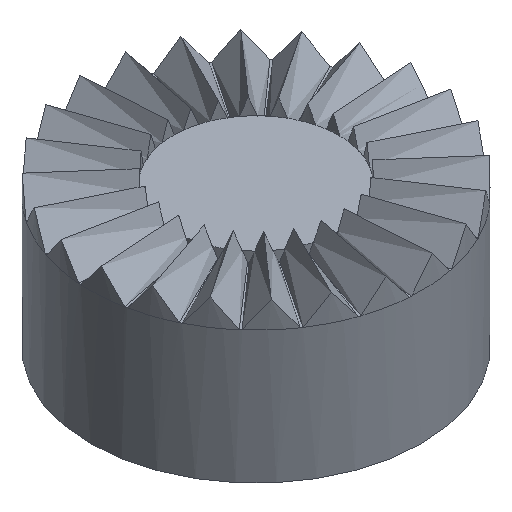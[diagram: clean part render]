
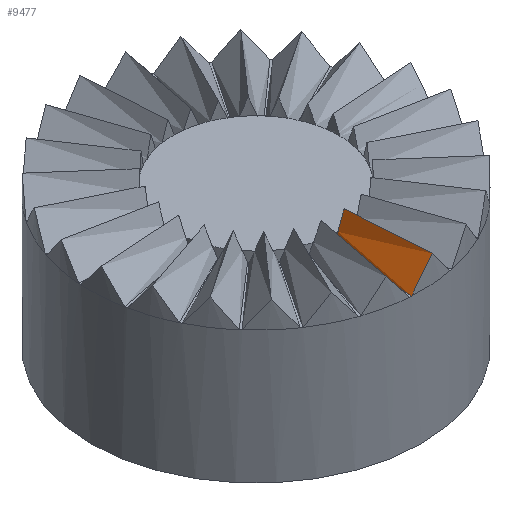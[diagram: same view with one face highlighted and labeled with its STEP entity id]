
A CAD part, isometric view. The second image highlights one B-rep face of the part: STEP entity #9477.
In plain terms, the highlighted free-form (B-spline) face has degree [1, 1] with [2, 2] control points.
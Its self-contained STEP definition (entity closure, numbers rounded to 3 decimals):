
#1389 = VERTEX_POINT('',#1390);
#1390 = CARTESIAN_POINT('',(-0.297,-4.991,-0.4));
#1405 = PLANE('',#1406);
#1406 = AXIS2_PLACEMENT_3D('',#1407,#1408,#1409);
#1407 = CARTESIAN_POINT('',(0.,0.,-0.4)
  );
#1408 = DIRECTION('',(0.,0.,1.));
#1409 = DIRECTION('',(1.,0.,-0.));
#1441 = CYLINDRICAL_SURFACE('',#1442,5.);
#1442 = AXIS2_PLACEMENT_3D('',#1443,#1444,#1445);
#1443 = CARTESIAN_POINT('',(0.,0.,-0.41));
#1444 = DIRECTION('',(-0.,-0.,-1.));
#1445 = DIRECTION('',(1.,0.,0.));
#4878 = EDGE_CURVE('',#4879,#1389,#4881,.T.);
#4879 = VERTEX_POINT('',#4880);
#4880 = CARTESIAN_POINT('',(-0.148,-2.496,-0.4));
#4881 = SURFACE_CURVE('',#4882,(#4885,#4891),.PCURVE_S1.);
#4882 = B_SPLINE_CURVE_WITH_KNOTS('',1,(#4883,#4884),.UNSPECIFIED.,.F.,
  .F.,(2,2),(0.,1.),.PIECEWISE_BEZIER_KNOTS.);
#4883 = CARTESIAN_POINT('',(-0.145,-2.446,-0.4));
#4884 = CARTESIAN_POINT('',(-0.314,-5.291,-0.4));
#4885 = PCURVE('',#1405,#4886);
#4886 = DEFINITIONAL_REPRESENTATION('',(#4887),#4890);
#4887 = B_SPLINE_CURVE_WITH_KNOTS('',1,(#4888,#4889),.UNSPECIFIED.,.F.,
  .F.,(2,2),(0.,1.),.PIECEWISE_BEZIER_KNOTS.);
#4888 = CARTESIAN_POINT('',(-0.145,-2.446));
#4889 = CARTESIAN_POINT('',(-0.314,-5.291));
#4890 = ( GEOMETRIC_REPRESENTATION_CONTEXT(2) 
PARAMETRIC_REPRESENTATION_CONTEXT() REPRESENTATION_CONTEXT('2D SPACE',''
  ) );
#4891 = PCURVE('',#4892,#4897);
#4892 = B_SPLINE_SURFACE_WITH_KNOTS('',1,1,(
    (#4893,#4894)
    ,(#4895,#4896
    )),.UNSPECIFIED.,.F.,.F.,.F.,(2,2),(2,2),(0.,1.038),(0.,1.)
  ,.PIECEWISE_BEZIER_KNOTS.);
#4893 = CARTESIAN_POINT('',(-0.145,-2.446,-0.4));
#4894 = CARTESIAN_POINT('',(-0.314,-5.291,-0.4));
#4895 = CARTESIAN_POINT('',(0.16,-2.445,0.4));
#4896 = CARTESIAN_POINT('',(0.347,-5.289,0.4));
#4897 = DEFINITIONAL_REPRESENTATION('',(#4898),#4902);
#4898 = LINE('',#4899,#4900);
#4899 = CARTESIAN_POINT('',(0.,0.));
#4900 = VECTOR('',#4901,1.);
#4901 = DIRECTION('',(0.,1.));
#4902 = ( GEOMETRIC_REPRESENTATION_CONTEXT(2) 
PARAMETRIC_REPRESENTATION_CONTEXT() REPRESENTATION_CONTEXT('2D SPACE',''
  ) );
#4921 = CYLINDRICAL_SURFACE('',#4922,2.5);
#4922 = AXIS2_PLACEMENT_3D('',#4923,#4924,#4925);
#4923 = CARTESIAN_POINT('',(0.,0.,-0.4));
#4924 = DIRECTION('',(-0.,-0.,-1.));
#4925 = DIRECTION('',(1.,0.,0.));
#4955 = EDGE_CURVE('',#4956,#1389,#4958,.T.);
#4956 = VERTEX_POINT('',#4957);
#4957 = CARTESIAN_POINT('',(0.327,-4.989,0.4));
#4958 = SURFACE_CURVE('',#4959,(#4968,#4980),.PCURVE_S1.);
#4959 = B_SPLINE_CURVE_WITH_KNOTS('',4,(#4960,#4961,#4962,#4963,#4964,
    #4965,#4966,#4967),.UNSPECIFIED.,.F.,.F.,(5,3,5),(0.,0.5,
    1.),.UNSPECIFIED.);
#4960 = CARTESIAN_POINT('',(0.327,-4.989,0.4));
#4961 = CARTESIAN_POINT('',(0.249,-4.994,0.3
    ));
#4962 = CARTESIAN_POINT('',(0.171,-4.998,
    0.2));
#4963 = CARTESIAN_POINT('',(0.093,-5.,
    0.1));
#4964 = CARTESIAN_POINT('',(-0.063,-5.,
    -0.1));
#4965 = CARTESIAN_POINT('',(-0.141,-4.999,
    -0.2));
#4966 = CARTESIAN_POINT('',(-0.219,-4.996,
    -0.3));
#4967 = CARTESIAN_POINT('',(-0.297,-4.991,-0.4));
#4968 = PCURVE('',#1441,#4969);
#4969 = DEFINITIONAL_REPRESENTATION('',(#4970),#4979);
#4970 = B_SPLINE_CURVE_WITH_KNOTS('',4,(#4971,#4972,#4973,#4974,#4975,
    #4976,#4977,#4978),.UNSPECIFIED.,.F.,.F.,(5,3,5),(0.,0.5,
    1.),.UNSPECIFIED.);
#4971 = CARTESIAN_POINT('',(-4.778,-0.81));
#4972 = CARTESIAN_POINT('',(-4.762,-0.71));
#4973 = CARTESIAN_POINT('',(-4.747,-0.61));
#4974 = CARTESIAN_POINT('',(-4.731,-0.51));
#4975 = CARTESIAN_POINT('',(-4.7,-0.31));
#4976 = CARTESIAN_POINT('',(-4.684,-0.21));
#4977 = CARTESIAN_POINT('',(-4.669,-0.11));
#4978 = CARTESIAN_POINT('',(-4.653,-0.01));
#4979 = ( GEOMETRIC_REPRESENTATION_CONTEXT(2) 
PARAMETRIC_REPRESENTATION_CONTEXT() REPRESENTATION_CONTEXT('2D SPACE',''
  ) );
#4980 = PCURVE('',#4892,#4981);
#4981 = DEFINITIONAL_REPRESENTATION('',(#4982),#4991);
#4982 = B_SPLINE_CURVE_WITH_KNOTS('',4,(#4983,#4984,#4985,#4986,#4987,
    #4988,#4989,#4990),.UNSPECIFIED.,.F.,.F.,(5,3,5),(0.,0.5,
    1.),.UNSPECIFIED.);
#4983 = CARTESIAN_POINT('',(1.038,0.895));
#4984 = CARTESIAN_POINT('',(0.908,0.896));
#4985 = CARTESIAN_POINT('',(0.778,0.898));
#4986 = CARTESIAN_POINT('',(0.649,0.898));
#4987 = CARTESIAN_POINT('',(0.389,0.898));
#4988 = CARTESIAN_POINT('',(0.259,0.898));
#4989 = CARTESIAN_POINT('',(0.13,0.896));
#4990 = CARTESIAN_POINT('',(0.,0.895));
#4991 = ( GEOMETRIC_REPRESENTATION_CONTEXT(2) 
PARAMETRIC_REPRESENTATION_CONTEXT() REPRESENTATION_CONTEXT('2D SPACE',''
  ) );
#5017 = B_SPLINE_SURFACE_WITH_KNOTS('',1,1,(
    (#5018,#5019)
    ,(#5020,#5021
    )),.UNSPECIFIED.,.F.,.F.,.F.,(2,2),(2,2),(0.,1.038),(0.,1.)
  ,.PIECEWISE_BEZIER_KNOTS.);
#5018 = CARTESIAN_POINT('',(0.16,-2.445,0.4));
#5019 = CARTESIAN_POINT('',(0.347,-5.289,0.4));
#5020 = CARTESIAN_POINT('',(0.463,-2.406,-0.4));
#5021 = CARTESIAN_POINT('',(1.002,-5.204,-0.4));
#9422 = EDGE_CURVE('',#9423,#4879,#9425,.T.);
#9423 = VERTEX_POINT('',#9424);
#9424 = CARTESIAN_POINT('',(-0.031,-2.5,-0.1));
#9425 = SURFACE_CURVE('',#9426,(#9433,#9443),.PCURVE_S1.);
#9426 = B_SPLINE_CURVE_WITH_KNOTS('',5,(#9427,#9428,#9429,#9430,#9431,
    #9432),.UNSPECIFIED.,.F.,.F.,(6,6),(0.,1.),
  .PIECEWISE_BEZIER_KNOTS.);
#9427 = CARTESIAN_POINT('',(0.164,-2.495,0.4));
#9428 = CARTESIAN_POINT('',(0.101,-2.499,
    0.24));
#9429 = CARTESIAN_POINT('',(0.039,-2.501,
    0.08));
#9430 = CARTESIAN_POINT('',(-0.024,-2.501,
    -0.08));
#9431 = CARTESIAN_POINT('',(-0.086,-2.499,
    -0.24));
#9432 = CARTESIAN_POINT('',(-0.148,-2.496,-0.4));
#9433 = PCURVE('',#4921,#9434);
#9434 = DEFINITIONAL_REPRESENTATION('',(#9435),#9442);
#9435 = B_SPLINE_CURVE_WITH_KNOTS('',5,(#9436,#9437,#9438,#9439,#9440,
    #9441),.UNSPECIFIED.,.F.,.F.,(6,6),(0.625,1.),
  .PIECEWISE_BEZIER_KNOTS.);
#9436 = CARTESIAN_POINT('',(-4.7,-0.3));
#9437 = CARTESIAN_POINT('',(-4.69,-0.24));
#9438 = CARTESIAN_POINT('',(-4.681,-0.18));
#9439 = CARTESIAN_POINT('',(-4.672,-0.12));
#9440 = CARTESIAN_POINT('',(-4.662,-0.06));
#9441 = CARTESIAN_POINT('',(-4.653,0.));
#9442 = ( GEOMETRIC_REPRESENTATION_CONTEXT(2) 
PARAMETRIC_REPRESENTATION_CONTEXT() REPRESENTATION_CONTEXT('2D SPACE',''
  ) );
#9443 = PCURVE('',#4892,#9444);
#9444 = DEFINITIONAL_REPRESENTATION('',(#9445),#9452);
#9445 = B_SPLINE_CURVE_WITH_KNOTS('',5,(#9446,#9447,#9448,#9449,#9450,
    #9451),.UNSPECIFIED.,.F.,.F.,(6,6),(0.,1.),
  .PIECEWISE_BEZIER_KNOTS.);
#9446 = CARTESIAN_POINT('',(1.038,0.018));
#9447 = CARTESIAN_POINT('',(0.83,0.019));
#9448 = CARTESIAN_POINT('',(0.623,0.02));
#9449 = CARTESIAN_POINT('',(0.415,0.02));
#9450 = CARTESIAN_POINT('',(0.208,0.019));
#9451 = CARTESIAN_POINT('',(0.,0.018));
#9452 = ( GEOMETRIC_REPRESENTATION_CONTEXT(2) 
PARAMETRIC_REPRESENTATION_CONTEXT() REPRESENTATION_CONTEXT('2D SPACE',''
  ) );
#9477 = ADVANCED_FACE('',(#9478),#4892,.F.);
#9478 = FACE_BOUND('',#9479,.F.);
#9479 = EDGE_LOOP('',(#9480,#9481,#9482,#9519,#9539));
#9480 = ORIENTED_EDGE('',*,*,#4878,.F.);
#9481 = ORIENTED_EDGE('',*,*,#9422,.F.);
#9482 = ORIENTED_EDGE('',*,*,#9483,.F.);
#9483 = EDGE_CURVE('',#9484,#9423,#9486,.T.);
#9484 = VERTEX_POINT('',#9485);
#9485 = CARTESIAN_POINT('',(0.164,-2.495,0.4));
#9486 = SURFACE_CURVE('',#9487,(#9494,#9504),.PCURVE_S1.);
#9487 = B_SPLINE_CURVE_WITH_KNOTS('',5,(#9488,#9489,#9490,#9491,#9492,
    #9493),.UNSPECIFIED.,.F.,.F.,(6,6),(0.,1.),
  .PIECEWISE_BEZIER_KNOTS.);
#9488 = CARTESIAN_POINT('',(0.164,-2.495,0.4));
#9489 = CARTESIAN_POINT('',(0.101,-2.499,
    0.24));
#9490 = CARTESIAN_POINT('',(0.039,-2.501,
    0.08));
#9491 = CARTESIAN_POINT('',(-0.024,-2.501,
    -0.08));
#9492 = CARTESIAN_POINT('',(-0.086,-2.499,
    -0.24));
#9493 = CARTESIAN_POINT('',(-0.148,-2.496,-0.4));
#9494 = PCURVE('',#4892,#9495);
#9495 = DEFINITIONAL_REPRESENTATION('',(#9496),#9503);
#9496 = B_SPLINE_CURVE_WITH_KNOTS('',5,(#9497,#9498,#9499,#9500,#9501,
    #9502),.UNSPECIFIED.,.F.,.F.,(6,6),(0.,1.),
  .PIECEWISE_BEZIER_KNOTS.);
#9497 = CARTESIAN_POINT('',(1.038,0.018));
#9498 = CARTESIAN_POINT('',(0.83,0.019));
#9499 = CARTESIAN_POINT('',(0.623,0.02));
#9500 = CARTESIAN_POINT('',(0.415,0.02));
#9501 = CARTESIAN_POINT('',(0.208,0.019));
#9502 = CARTESIAN_POINT('',(0.,0.018));
#9503 = ( GEOMETRIC_REPRESENTATION_CONTEXT(2) 
PARAMETRIC_REPRESENTATION_CONTEXT() REPRESENTATION_CONTEXT('2D SPACE',''
  ) );
#9504 = PCURVE('',#9505,#9510);
#9505 = CYLINDRICAL_SURFACE('',#9506,2.5);
#9506 = AXIS2_PLACEMENT_3D('',#9507,#9508,#9509);
#9507 = CARTESIAN_POINT('',(0.,0.,-0.41)
  );
#9508 = DIRECTION('',(-0.,-0.,-1.));
#9509 = DIRECTION('',(1.,0.,0.));
#9510 = DEFINITIONAL_REPRESENTATION('',(#9511),#9518);
#9511 = B_SPLINE_CURVE_WITH_KNOTS('',5,(#9512,#9513,#9514,#9515,#9516,
    #9517),.UNSPECIFIED.,.F.,.F.,(6,6),(0.,1.),
  .PIECEWISE_BEZIER_KNOTS.);
#9512 = CARTESIAN_POINT('',(-4.778,-0.81));
#9513 = CARTESIAN_POINT('',(-4.753,-0.65));
#9514 = CARTESIAN_POINT('',(-4.728,-0.49));
#9515 = CARTESIAN_POINT('',(-4.703,-0.33));
#9516 = CARTESIAN_POINT('',(-4.678,-0.17));
#9517 = CARTESIAN_POINT('',(-4.653,-0.01));
#9518 = ( GEOMETRIC_REPRESENTATION_CONTEXT(2) 
PARAMETRIC_REPRESENTATION_CONTEXT() REPRESENTATION_CONTEXT('2D SPACE',''
  ) );
#9519 = ORIENTED_EDGE('',*,*,#9520,.T.);
#9520 = EDGE_CURVE('',#9484,#4956,#9521,.T.);
#9521 = SURFACE_CURVE('',#9522,(#9525,#9532),.PCURVE_S1.);
#9522 = B_SPLINE_CURVE_WITH_KNOTS('',1,(#9523,#9524),.UNSPECIFIED.,.F.,
  .F.,(2,2),(0.,1.),.PIECEWISE_BEZIER_KNOTS.);
#9523 = CARTESIAN_POINT('',(0.16,-2.445,0.4));
#9524 = CARTESIAN_POINT('',(0.347,-5.289,0.4));
#9525 = PCURVE('',#4892,#9526);
#9526 = DEFINITIONAL_REPRESENTATION('',(#9527),#9531);
#9527 = LINE('',#9528,#9529);
#9528 = CARTESIAN_POINT('',(1.038,0.));
#9529 = VECTOR('',#9530,1.);
#9530 = DIRECTION('',(0.,1.));
#9531 = ( GEOMETRIC_REPRESENTATION_CONTEXT(2) 
PARAMETRIC_REPRESENTATION_CONTEXT() REPRESENTATION_CONTEXT('2D SPACE',''
  ) );
#9532 = PCURVE('',#5017,#9533);
#9533 = DEFINITIONAL_REPRESENTATION('',(#9534),#9538);
#9534 = LINE('',#9535,#9536);
#9535 = CARTESIAN_POINT('',(0.,0.));
#9536 = VECTOR('',#9537,1.);
#9537 = DIRECTION('',(0.,1.));
#9538 = ( GEOMETRIC_REPRESENTATION_CONTEXT(2) 
PARAMETRIC_REPRESENTATION_CONTEXT() REPRESENTATION_CONTEXT('2D SPACE',''
  ) );
#9539 = ORIENTED_EDGE('',*,*,#4955,.T.);
